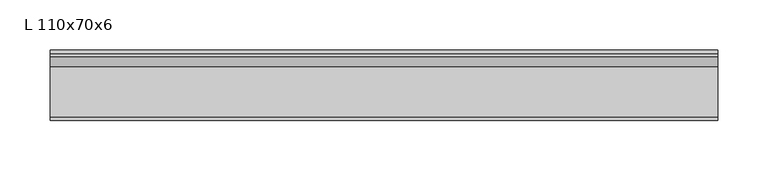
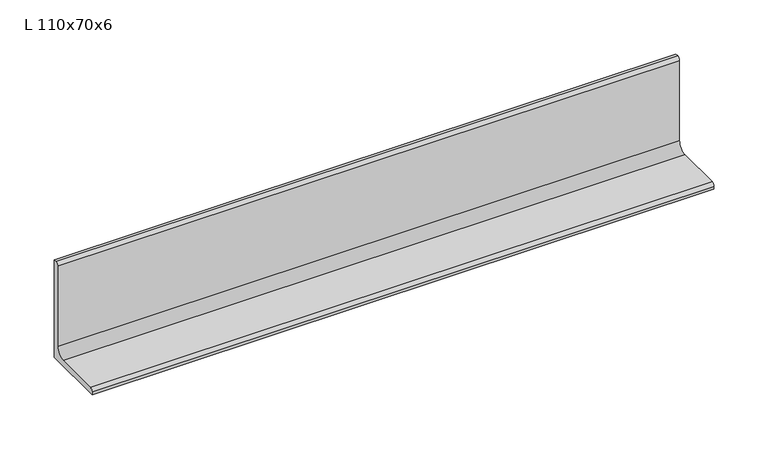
"""IFC4 building model written with IfcOpenShell, lengths in millimetres: beam geometry, Уголок (ГОСТ 8510-86) Балки : L 110x70x6."""

from ifc_helpers import new_model, si_unit, point, frame, frame_2d, origin, place, context, project, spatial, polyline, circle_curve, trimmed, segment, composite_curve, outline, extrude, source, transform, mapped, element, save


def l_110x70x6_443061e0(model_context):
    return source(origin(), model_context, "Body", "SweptSolid", [
        extrude(outline(composite_curve([segment(polyline([(15.8, -35.5), (-54.2, -35.5), (-54.2, -32.3)]), True, "CONTINUOUS"), segment(trimmed(circle_curve(frame_2d((-50.9, -32.3)), 3.3), [point((-54.2, -32.3))], [point((-50.9, -29.0))], False, "CARTESIAN"), True, "CONTINUOUS"), segment(polyline([(-50.9, -29.0), (-0.7, -29.0)]), True, "CONTINUOUS"), segment(trimmed(circle_curve(frame_2d((-0.7, -19.0)), 10.0), [point((-0.7, -29.0))], [point((9.3, -19.0))], True, "CARTESIAN"), True, "CONTINUOUS"), segment(polyline([(9.3, -19.0), (9.3, 71.2)]), True, "CONTINUOUS"), segment(trimmed(circle_curve(frame_2d((12.6, 71.2)), 3.3), [point((9.3, 71.2))], [point((12.6, 74.5))], False, "CARTESIAN"), True, "CONTINUOUS"), segment(polyline([(12.6, 74.5), (15.8, 74.5), (15.8, -35.5)]), True, "CONTINUOUS")], self_intersect=False)), frame((-431.5, 0.0, 0.0), z_axis=(1.0, 0.0, 0.0), x_axis=(0.0, 1.0, 0.0)), (0.0, 0.0, 1.0), 663.0),
    ])


if __name__ == "__main__":
    model = new_model("IFC4")
    model_context = context("Model", 3, world=origin())
    ifc_project = project(units=[si_unit("LENGTHUNIT", "METRE", prefix="MILLI")], contexts=[model_context])
    site = spatial("IfcSite", under=ifc_project)
    building = spatial("IfcBuilding", under=site)
    placement = place(None, origin())
    l_110x70x6_shape = l_110x70x6_443061e0(model_context)
    element("IfcBeam", 1, ObjectType="Уголок (ГОСТ 8510-86) Балки : L 110x70x6", at=placement, inside=building, context=model_context, shape_type="MappedRepresentation", body=[
        mapped(l_110x70x6_shape, transform((0.0, 0.0, 0.0), x_axis=(1.0, 0.0, 0.0), y_axis=(0.0, 1.0, 0.0), z_axis=(0.0, 0.0, 1.0))),
    ])
    save(model, "model.ifc")
